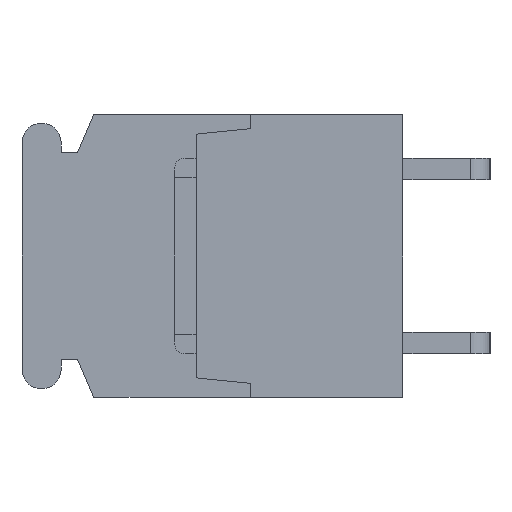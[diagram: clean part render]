
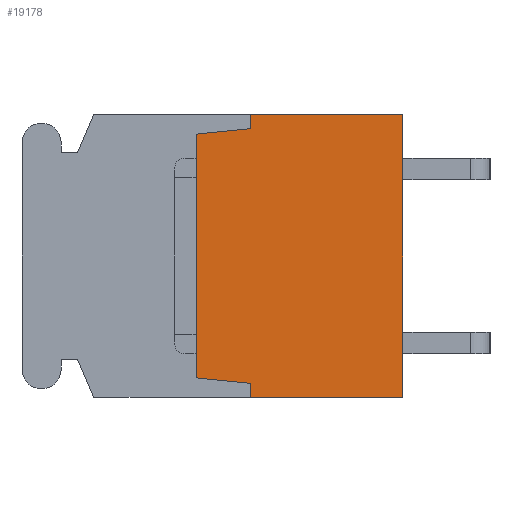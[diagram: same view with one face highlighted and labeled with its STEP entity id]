
A CAD part, left-side view. The second image highlights one B-rep face of the part: STEP entity #19178.
In plain terms, the highlighted planar face has unit normal (-1, 0, 0).
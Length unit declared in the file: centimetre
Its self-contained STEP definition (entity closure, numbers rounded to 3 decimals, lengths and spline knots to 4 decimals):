
#1250=VERTEX_POINT('',#25459);
#1253=VERTEX_POINT('',#25464);
#1691=VERTEX_POINT('',#27226);
#1692=VERTEX_POINT('',#27228);
#1693=VERTEX_POINT('',#27230);
#1694=VERTEX_POINT('',#27232);
#1695=VERTEX_POINT('',#27234);
#1696=VERTEX_POINT('',#27236);
#3244=VECTOR('',#21044,1.);
#3763=VECTOR('',#21762,1.);
#3764=VECTOR('',#21763,1.);
#3765=VECTOR('',#21764,1.);
#3766=VECTOR('',#21765,1.);
#3767=VECTOR('',#21766,1.);
#3768=VECTOR('',#21767,1.);
#3769=VECTOR('',#21768,1.);
#5436=LINE('',#25465,#3244);
#5955=LINE('',#27225,#3763);
#5956=LINE('',#27227,#3764);
#5957=LINE('',#27229,#3765);
#5958=LINE('',#27231,#3766);
#5959=LINE('',#27233,#3767);
#5960=LINE('',#27235,#3768);
#5961=LINE('',#27237,#3769);
#7644=EDGE_CURVE('',#1253,#1250,#5436,.T.);
#8280=EDGE_CURVE('',#1691,#1253,#5955,.T.);
#8281=EDGE_CURVE('',#1692,#1691,#5956,.T.);
#8282=EDGE_CURVE('',#1693,#1692,#5957,.T.);
#8283=EDGE_CURVE('',#1694,#1693,#5958,.T.);
#8284=EDGE_CURVE('',#1695,#1694,#5959,.T.);
#8285=EDGE_CURVE('',#1696,#1695,#5960,.T.);
#8286=EDGE_CURVE('',#1250,#1696,#5961,.T.);
#11890=ORIENTED_EDGE('',*,*,#7644,.F.);
#11891=ORIENTED_EDGE('',*,*,#8280,.F.);
#11892=ORIENTED_EDGE('',*,*,#8281,.F.);
#11893=ORIENTED_EDGE('',*,*,#8282,.F.);
#11894=ORIENTED_EDGE('',*,*,#8283,.F.);
#11895=ORIENTED_EDGE('',*,*,#8284,.F.);
#11896=ORIENTED_EDGE('',*,*,#8285,.F.);
#11897=ORIENTED_EDGE('',*,*,#8286,.F.);
#16709=EDGE_LOOP('',(#11890,#11891,#11892,#11893,#11894,#11895,#11896,#11897));
#17969=FACE_BOUND('',#16709,.T.);
#19178=ADVANCED_FACE('',(#17969),#20228,.F.);
#20228=PLANE('',#32748);
#21044=DIRECTION('',(0.,0.,-1.));
#21761=DIRECTION('',(1.,0.,0.));
#21762=DIRECTION('',(0.,-1.,0.));
#21763=DIRECTION('',(0.,0.,1.));
#21764=DIRECTION('',(0.,-0.995,0.1));
#21765=DIRECTION('',(0.,0.,1.));
#21766=DIRECTION('',(0.,0.995,0.1));
#21767=DIRECTION('',(0.,0.,1.));
#21768=DIRECTION('',(0.,1.,0.));
#25459=CARTESIAN_POINT('',(-1.84,0.,-0.65));
#25464=CARTESIAN_POINT('',(-1.84,0.,0.65));
#25465=CARTESIAN_POINT('',(-1.84,0.,0.65));
#27224=CARTESIAN_POINT('',(-1.84,0.4626,0.));
#27225=CARTESIAN_POINT('',(-1.84,0.7,0.65));
#27226=CARTESIAN_POINT('',(-1.84,0.7,0.65));
#27227=CARTESIAN_POINT('',(-1.84,0.7,0.585));
#27228=CARTESIAN_POINT('',(-1.84,0.7,0.585));
#27229=CARTESIAN_POINT('',(-1.84,0.95,0.56));
#27230=CARTESIAN_POINT('',(-1.84,0.95,0.56));
#27231=CARTESIAN_POINT('',(-1.84,0.95,-0.56));
#27232=CARTESIAN_POINT('',(-1.84,0.95,-0.56));
#27233=CARTESIAN_POINT('',(-1.84,0.7,-0.585));
#27234=CARTESIAN_POINT('',(-1.84,0.7,-0.585));
#27235=CARTESIAN_POINT('',(-1.84,0.7,-0.65));
#27236=CARTESIAN_POINT('',(-1.84,0.7,-0.65));
#27237=CARTESIAN_POINT('',(-1.84,0.,-0.65));
#32748=AXIS2_PLACEMENT_3D('',#27224,#21761,$);
